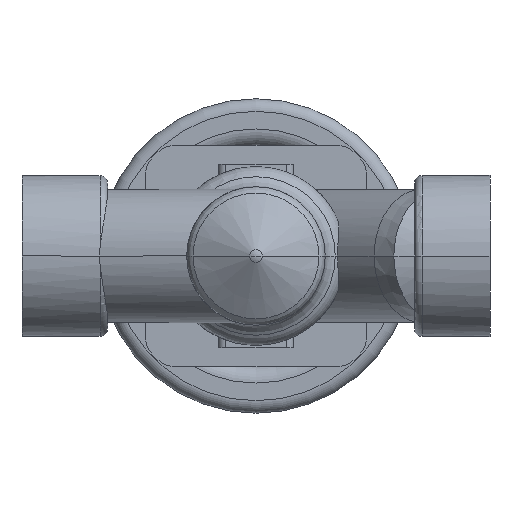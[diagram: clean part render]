
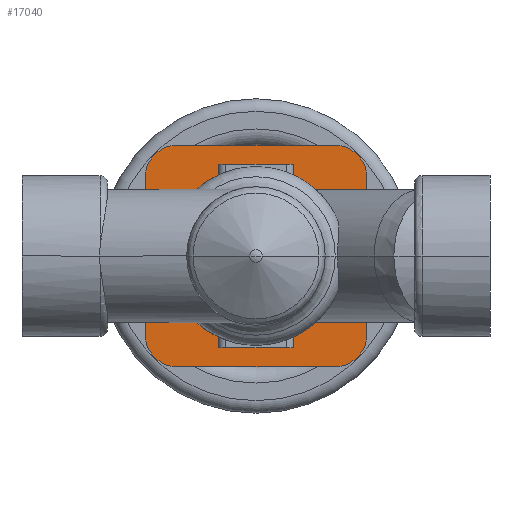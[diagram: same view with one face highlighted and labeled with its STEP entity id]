
A CAD part, front view. The second image highlights one B-rep face of the part: STEP entity #17040.
In plain terms, the highlighted planar face has unit normal (0, -1, 0).
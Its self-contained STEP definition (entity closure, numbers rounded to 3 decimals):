
#3540=CARTESIAN_POINT('',(78.,56.5,32.175));
#3550=VERTEX_POINT('',#3540);
#4170=CARTESIAN_POINT('',(108.,56.5,32.175));
#4180=VERTEX_POINT('',#4170);
#4210=CARTESIAN_POINT('',(93.,56.5,0.));
#4220=DIRECTION('',(0.,1.,0.));
#4230=DIRECTION('',(1.,0.,0.));
#4240=AXIS2_PLACEMENT_3D('',#4210,#4220,#4230);
#4250=CIRCLE('',#4240,35.5);
#4260=CARTESIAN_POINT('',(118.775,56.5,24.411));
#4270=VERTEX_POINT('',#4260);
#4280=EDGE_CURVE('',#4180,#4270,#4250,.T.);
#5230=CARTESIAN_POINT('',(57.5,56.5,0.));
#5240=VERTEX_POINT('',#5230);
#5270=CARTESIAN_POINT('',(93.,56.5,0.));
#5280=DIRECTION('',(0.,1.,0.));
#5290=DIRECTION('',(1.,0.,0.));
#5300=AXIS2_PLACEMENT_3D('',#5270,#5280,#5290);
#5310=CIRCLE('',#5300,35.5);
#5320=EDGE_CURVE('',#5240,#3550,#5310,.T.);
#8670=CARTESIAN_POINT('',(104.439,56.5,0.));
#8680=DIRECTION('',(0.,1.,0.));
#8690=DIRECTION('',(-1.,0.,0.));
#8700=AXIS2_PLACEMENT_3D('',#8670,#8680,#8690);
#8710=ELLIPSE('',#8700,36.839,26.5);
#8720=CARTESIAN_POINT('',(137.113,56.5,-12.24));
#8730=VERTEX_POINT('',#8720);
#8740=CARTESIAN_POINT('',(118.775,56.5,-24.411));
#8750=VERTEX_POINT('',#8740);
#8760=EDGE_CURVE('',#8730,#8750,#8710,.T.);
#14300=CARTESIAN_POINT('',(78.,56.5,-36.5));
#14310=VERTEX_POINT('',#14300);
#14340=CARTESIAN_POINT('',(78.,56.5,18.25));
#14350=DIRECTION('',(0.,0.,1.));
#14360=VECTOR('',#14350,1.);
#14370=LINE('',#14340,#14360);
#14380=CARTESIAN_POINT('',(78.,56.5,-32.175));
#14390=VERTEX_POINT('',#14380);
#14400=EDGE_CURVE('',#14310,#14390,#14370,.T.);
#15630=CARTESIAN_POINT('',(139.75,56.5,0.));
#15640=DIRECTION('',(0.,-1.,0.));
#15650=DIRECTION('',(-1.,0.,0.));
#15660=AXIS2_PLACEMENT_3D('',#15630,#15640,#15650);
#15670=PLANE('',#15660);
#15680=CARTESIAN_POINT('',(137.113,56.5,-15.556));
#15690=DIRECTION('',(0.,0.,1.));
#15700=VECTOR('',#15690,1.);
#15710=LINE('',#15680,#15700);
#15720=CARTESIAN_POINT('',(137.113,56.5,-31.113));
#15730=VERTEX_POINT('',#15720);
#15740=EDGE_CURVE('',#15730,#8730,#15710,.T.);
#15750=ORIENTED_EDGE('',*,*,#15740,.T.);
#15760=CARTESIAN_POINT('',(124.113,56.5,-31.113));
#15770=DIRECTION('',(0.,-1.,0.));
#15780=DIRECTION('',(1.,0.,0.));
#15790=AXIS2_PLACEMENT_3D('',#15760,#15770,#15780);
#15800=CIRCLE('',#15790,13.);
#15810=CARTESIAN_POINT('',(124.113,56.5,-44.113));
#15820=VERTEX_POINT('',#15810);
#15830=EDGE_CURVE('',#15820,#15730,#15800,.T.);
#15840=ORIENTED_EDGE('',*,*,#15830,.T.);
#15850=CARTESIAN_POINT('',(100.819,56.5,-44.113));
#15860=DIRECTION('',(1.,0.,0.));
#15870=VECTOR('',#15860,1.);
#15880=LINE('',#15850,#15870);
#15890=CARTESIAN_POINT('',(61.887,56.5,-44.113));
#15900=VERTEX_POINT('',#15890);
#15910=EDGE_CURVE('',#15900,#15820,#15880,.T.);
#15920=ORIENTED_EDGE('',*,*,#15910,.T.);
#15930=CARTESIAN_POINT('',(61.887,56.5,-31.113));
#15940=DIRECTION('',(0.,-1.,0.));
#15950=DIRECTION('',(0.,0.,-1.));
#15960=AXIS2_PLACEMENT_3D('',#15930,#15940,#15950);
#15970=CIRCLE('',#15960,13.);
#15980=CARTESIAN_POINT('',(48.887,56.5,-31.113));
#15990=VERTEX_POINT('',#15980);
#16000=EDGE_CURVE('',#15990,#15900,#15970,.T.);
#16010=ORIENTED_EDGE('',*,*,#16000,.T.);
#16020=CARTESIAN_POINT('',(48.887,56.5,15.556));
#16030=DIRECTION('',(0.,0.,-1.));
#16040=VECTOR('',#16030,1.);
#16050=LINE('',#16020,#16040);
#16060=CARTESIAN_POINT('',(48.887,56.5,31.113));
#16070=VERTEX_POINT('',#16060);
#16080=EDGE_CURVE('',#16070,#15990,#16050,.T.);
#16090=ORIENTED_EDGE('',*,*,#16080,.T.);
#16100=CARTESIAN_POINT('',(61.887,56.5,31.113));
#16110=DIRECTION('',(0.,-1.,0.));
#16120=DIRECTION('',(-1.,0.,0.));
#16130=AXIS2_PLACEMENT_3D('',#16100,#16110,#16120);
#16140=CIRCLE('',#16130,13.);
#16150=CARTESIAN_POINT('',(61.887,56.5,44.113));
#16160=VERTEX_POINT('',#16150);
#16170=EDGE_CURVE('',#16160,#16070,#16140,.T.);
#16180=ORIENTED_EDGE('',*,*,#16170,.T.);
#16190=CARTESIAN_POINT('',(131.931,56.5,44.113));
#16200=DIRECTION('',(-1.,0.,0.));
#16210=VECTOR('',#16200,1.);
#16220=LINE('',#16190,#16210);
#16230=CARTESIAN_POINT('',(124.113,56.5,44.113));
#16240=VERTEX_POINT('',#16230);
#16250=EDGE_CURVE('',#16240,#16160,#16220,.T.);
#16260=ORIENTED_EDGE('',*,*,#16250,.T.);
#16270=CARTESIAN_POINT('',(124.113,56.5,31.113));
#16280=DIRECTION('',(0.,-1.,0.));
#16290=DIRECTION('',(0.,0.,1.));
#16300=AXIS2_PLACEMENT_3D('',#16270,#16280,#16290);
#16310=CIRCLE('',#16300,13.);
#16320=CARTESIAN_POINT('',(137.113,56.5,31.113));
#16330=VERTEX_POINT('',#16320);
#16340=EDGE_CURVE('',#16330,#16240,#16310,.T.);
#16350=ORIENTED_EDGE('',*,*,#16340,.T.);
#16360=CARTESIAN_POINT('',(137.113,56.5,-15.556));
#16370=DIRECTION('',(0.,0.,1.));
#16380=VECTOR('',#16370,1.);
#16390=LINE('',#16360,#16380);
#16400=CARTESIAN_POINT('',(137.113,56.5,12.24));
#16410=VERTEX_POINT('',#16400);
#16420=EDGE_CURVE('',#16410,#16330,#16390,.T.);
#16430=ORIENTED_EDGE('',*,*,#16420,.T.);
#16440=CARTESIAN_POINT('',(104.439,56.5,0.));
#16450=DIRECTION('',(0.,1.,0.));
#16460=DIRECTION('',(-1.,0.,0.));
#16470=AXIS2_PLACEMENT_3D('',#16440,#16450,#16460);
#16480=ELLIPSE('',#16470,36.839,26.5);
#16490=EDGE_CURVE('',#4270,#16410,#16480,.T.);
#16500=ORIENTED_EDGE('',*,*,#16490,.T.);
#16510=ORIENTED_EDGE('',*,*,#4280,.T.);
#16520=CARTESIAN_POINT('',(108.,56.5,18.25));
#16530=DIRECTION('',(0.,0.,-1.));
#16540=VECTOR('',#16530,1.);
#16550=LINE('',#16520,#16540);
#16560=CARTESIAN_POINT('',(108.,56.5,36.5));
#16570=VERTEX_POINT('',#16560);
#16580=EDGE_CURVE('',#16570,#4180,#16550,.T.);
#16590=ORIENTED_EDGE('',*,*,#16580,.T.);
#16600=CARTESIAN_POINT('',(116.375,56.5,36.5));
#16610=DIRECTION('',(1.,0.,0.));
#16620=VECTOR('',#16610,1.);
#16630=LINE('',#16600,#16620);
#16640=CARTESIAN_POINT('',(78.,56.5,36.5));
#16650=VERTEX_POINT('',#16640);
#16660=EDGE_CURVE('',#16650,#16570,#16630,.T.);
#16670=ORIENTED_EDGE('',*,*,#16660,.T.);
#16680=CARTESIAN_POINT('',(78.,56.5,18.25));
#16690=DIRECTION('',(0.,0.,1.));
#16700=VECTOR('',#16690,1.);
#16710=LINE('',#16680,#16700);
#16720=EDGE_CURVE('',#3550,#16650,#16710,.T.);
#16730=ORIENTED_EDGE('',*,*,#16720,.T.);
#16740=ORIENTED_EDGE('',*,*,#5320,.T.);
#16750=EDGE_CURVE('',#14390,#5240,#5310,.T.);
#16760=ORIENTED_EDGE('',*,*,#16750,.T.);
#16770=ORIENTED_EDGE('',*,*,#14400,.T.);
#16780=CARTESIAN_POINT('',(116.375,56.5,-36.5));
#16790=DIRECTION('',(-1.,0.,0.));
#16800=VECTOR('',#16790,1.);
#16810=LINE('',#16780,#16800);
#16820=CARTESIAN_POINT('',(108.,56.5,-36.5));
#16830=VERTEX_POINT('',#16820);
#16840=EDGE_CURVE('',#16830,#14310,#16810,.T.);
#16850=ORIENTED_EDGE('',*,*,#16840,.T.);
#16860=CARTESIAN_POINT('',(108.,56.5,18.25));
#16870=DIRECTION('',(0.,0.,-1.));
#16880=VECTOR('',#16870,1.);
#16890=LINE('',#16860,#16880);
#16900=CARTESIAN_POINT('',(108.,56.5,-32.175));
#16910=VERTEX_POINT('',#16900);
#16920=EDGE_CURVE('',#16910,#16830,#16890,.T.);
#16930=ORIENTED_EDGE('',*,*,#16920,.T.);
#16940=CARTESIAN_POINT('',(93.,56.5,0.));
#16950=DIRECTION('',(0.,1.,0.));
#16960=DIRECTION('',(1.,0.,0.));
#16970=AXIS2_PLACEMENT_3D('',#16940,#16950,#16960);
#16980=CIRCLE('',#16970,35.5);
#16990=EDGE_CURVE('',#8750,#16910,#16980,.T.);
#17000=ORIENTED_EDGE('',*,*,#16990,.T.);
#17010=ORIENTED_EDGE('',*,*,#8760,.T.);
#17020=EDGE_LOOP('',(#17010,#17000,#16930,#16850,#16770,#16760,#16740,
#16730,#16670,#16590,#16510,#16500,#16430,#16350,#16260,#16180,#16090,
#16010,#15920,#15840,#15750));
#17030=FACE_OUTER_BOUND('',#17020,.T.);
#17040=ADVANCED_FACE('',(#17030),#15670,.T.);
